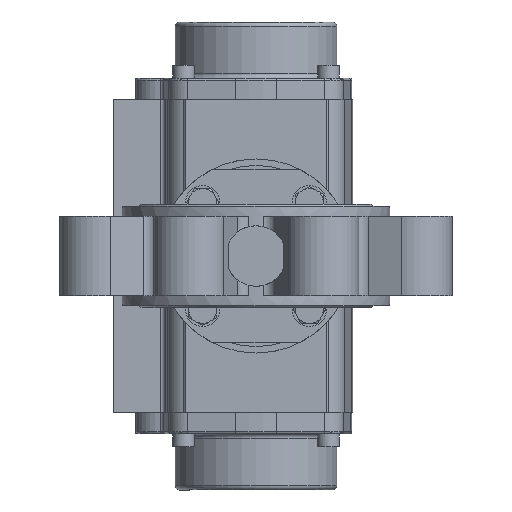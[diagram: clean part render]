
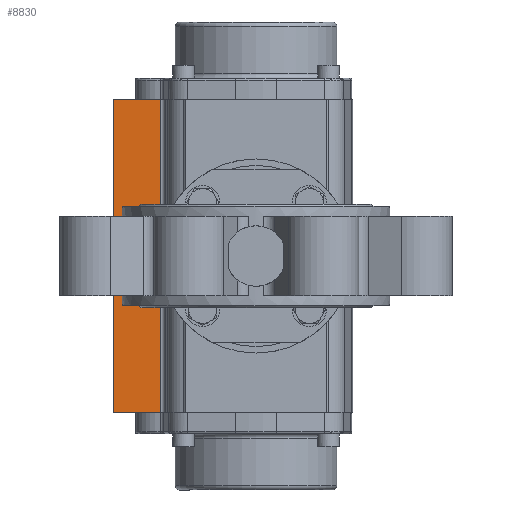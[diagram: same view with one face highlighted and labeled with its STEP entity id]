
A CAD part, front view. The second image highlights one B-rep face of the part: STEP entity #8830.
In plain terms, the highlighted planar face has unit normal (0, -1, 0).
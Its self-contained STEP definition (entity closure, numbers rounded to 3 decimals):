
#776 = ORIENTED_EDGE ( 'NONE', *, *, #25958, .T. ) ;
#798 = DIRECTION ( 'NONE',  ( 0., 1., 0. ) ) ;
#2014 = LINE ( 'NONE', #18986, #18621 ) ;
#4323 = FACE_OUTER_BOUND ( 'NONE', #11917, .T. ) ;
#5127 = CARTESIAN_POINT ( 'NONE',  ( 72.45, -22., 44.111 ) ) ;
#5226 = VERTEX_POINT ( 'NONE', #19981 ) ;
#5329 = CARTESIAN_POINT ( 'NONE',  ( -72.45, -22., 44.111 ) ) ;
#7670 = LINE ( 'NONE', #11776, #19882 ) ;
#7873 = CARTESIAN_POINT ( 'NONE',  ( 72.45, -22., 66. ) ) ;
#8234 = DIRECTION ( 'NONE',  ( -1., 0., 0. ) ) ;
#8830 = ADVANCED_FACE ( 'NONE', ( #4323 ), #12618, .F. ) ;
#10597 = DIRECTION ( 'NONE',  ( 0., 0., 1. ) ) ;
#11586 = EDGE_CURVE ( 'NONE', #12331, #5226, #2014, .T. ) ;
#11776 = CARTESIAN_POINT ( 'NONE',  ( 72.45, -22., 66. ) ) ;
#11917 = EDGE_LOOP ( 'NONE', ( #15497, #776, #16955, #16217 ) ) ;
#12331 = VERTEX_POINT ( 'NONE', #21431 ) ;
#12618 = PLANE ( 'NONE',  #21924 ) ;
#12807 = DIRECTION ( 'NONE',  ( 1., 0., 0. ) ) ;
#12897 = EDGE_CURVE ( 'NONE', #5226, #14127, #18432, .T. ) ;
#13926 = VECTOR ( 'NONE', #24659, 1000. ) ;
#14127 = VERTEX_POINT ( 'NONE', #5329 ) ;
#15497 = ORIENTED_EDGE ( 'NONE', *, *, #12897, .T. ) ;
#16217 = ORIENTED_EDGE ( 'NONE', *, *, #11586, .T. ) ;
#16375 = CARTESIAN_POINT ( 'NONE',  ( -72.45, -22., 66. ) ) ;
#16639 = CARTESIAN_POINT ( 'NONE',  ( 72.45, -22., 44.111 ) ) ;
#16955 = ORIENTED_EDGE ( 'NONE', *, *, #18816, .F. ) ;
#18432 = LINE ( 'NONE', #16375, #13926 ) ;
#18499 = VERTEX_POINT ( 'NONE', #5127 ) ;
#18621 = VECTOR ( 'NONE', #8234, 1000. ) ;
#18816 = EDGE_CURVE ( 'NONE', #12331, #18499, #7670, .T. ) ;
#18986 = CARTESIAN_POINT ( 'NONE',  ( 72.45, -22., 66. ) ) ;
#19001 = VECTOR ( 'NONE', #12807, 1000. ) ;
#19525 = DIRECTION ( 'NONE',  ( 0., 0., -1. ) ) ;
#19882 = VECTOR ( 'NONE', #19525, 1000. ) ;
#19981 = CARTESIAN_POINT ( 'NONE',  ( -72.45, -22., 66. ) ) ;
#20563 = LINE ( 'NONE', #16639, #19001 ) ;
#21431 = CARTESIAN_POINT ( 'NONE',  ( 72.45, -22., 66. ) ) ;
#21924 = AXIS2_PLACEMENT_3D ( 'NONE', #7873, #798, #10597 ) ;
#24659 = DIRECTION ( 'NONE',  ( 0., 0., -1. ) ) ;
#25958 = EDGE_CURVE ( 'NONE', #14127, #18499, #20563, .T. ) ;
